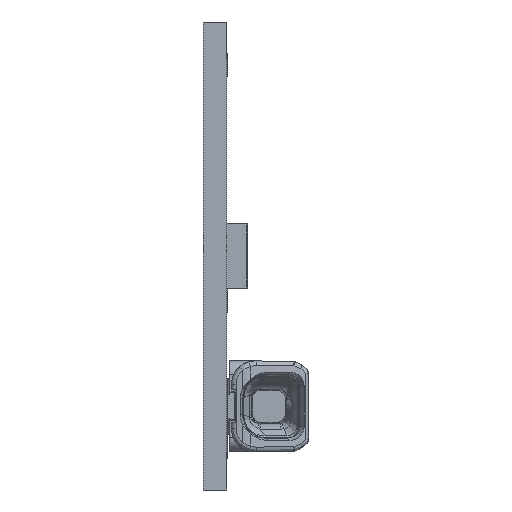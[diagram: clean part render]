
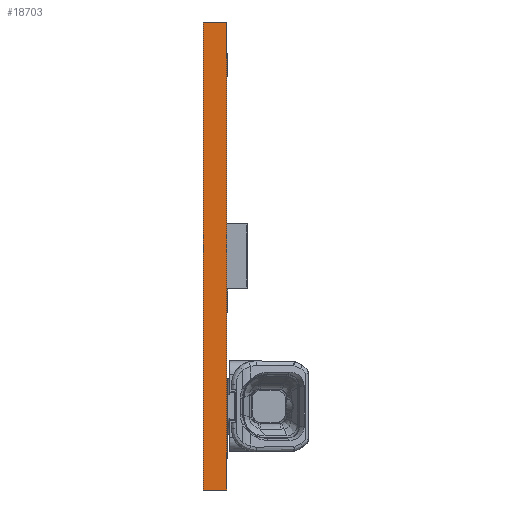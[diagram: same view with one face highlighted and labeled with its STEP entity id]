
A CAD part, left-side view. The second image highlights one B-rep face of the part: STEP entity #18703.
In plain terms, the highlighted planar face has unit normal (-1, 0, 0).
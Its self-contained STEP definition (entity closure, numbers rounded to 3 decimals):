
#1874=ORIENTED_EDGE('',*,*,#6033,.F.);
#1875=ORIENTED_EDGE('',*,*,#6163,.F.);
#1876=ORIENTED_EDGE('',*,*,#6119,.T.);
#1877=ORIENTED_EDGE('',*,*,#6162,.T.);
#6033=EDGE_CURVE('',#8285,#8286,#9829,.T.);
#6119=EDGE_CURVE('',#8329,#8371,#9895,.T.);
#6162=EDGE_CURVE('',#8371,#8286,#9938,.T.);
#6163=EDGE_CURVE('',#8329,#8285,#9939,.T.);
#8285=VERTEX_POINT('',#25436);
#8286=VERTEX_POINT('',#25438);
#8329=VERTEX_POINT('',#25525);
#8371=VERTEX_POINT('',#25609);
#9829=LINE('',#25437,#11495);
#9895=LINE('',#25610,#11561);
#9938=LINE('',#25695,#11604);
#9939=LINE('',#25697,#11605);
#11495=VECTOR('',#20992,1000.);
#11561=VECTOR('',#21100,1000.);
#11604=VECTOR('',#21227,1000.);
#11605=VECTOR('',#21230,1000.);
#13056=EDGE_LOOP('',(#1874,#1875,#1876,#1877));
#14046=FACE_BOUND('',#13056,.T.);
#14966=PLANE('',#19629);
#18703=ADVANCED_FACE('',(#14046),#14966,.T.);
#19629=AXIS2_PLACEMENT_3D('',#25696,#21228,#21229);
#20992=DIRECTION('',(0.,0.,-1.));
#21100=DIRECTION('',(0.,0.,-1.));
#21227=DIRECTION('',(0.,-1.,0.));
#21228=DIRECTION('',(-1.,0.,0.));
#21229=DIRECTION('',(0.,0.,1.));
#21230=DIRECTION('',(0.,-1.,0.));
#25436=CARTESIAN_POINT('',(-140.,0.,10.));
#25437=CARTESIAN_POINT('',(-140.,0.,10.));
#25438=CARTESIAN_POINT('',(-140.,0.,-10.));
#25525=CARTESIAN_POINT('',(-140.,1.,10.));
#25609=CARTESIAN_POINT('',(-140.,1.,-10.));
#25610=CARTESIAN_POINT('',(-140.,1.,10.));
#25695=CARTESIAN_POINT('',(-140.,1.,-10.));
#25696=CARTESIAN_POINT('',(-140.,1.,10.));
#25697=CARTESIAN_POINT('',(-140.,1.,10.));
